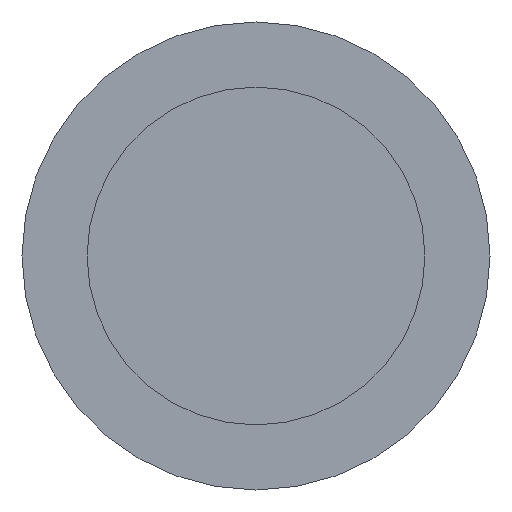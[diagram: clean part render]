
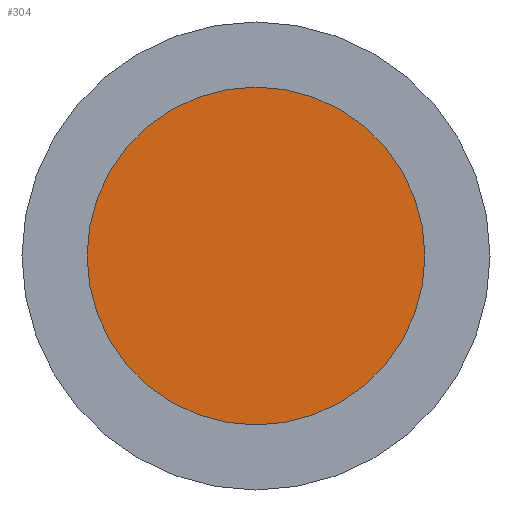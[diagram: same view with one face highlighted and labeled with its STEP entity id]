
A CAD part, left-side view. The second image highlights one B-rep face of the part: STEP entity #304.
In plain terms, the highlighted planar face has unit normal (-1, 0, 0).
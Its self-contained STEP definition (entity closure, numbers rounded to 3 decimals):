
#5 = ORIENTED_EDGE ( 'NONE', *, *, #306, .T. ) ;
#78 = AXIS2_PLACEMENT_3D ( 'NONE', #148, #158, #159 ) ;
#80 = AXIS2_PLACEMENT_3D ( 'NONE', #373, #374, #375 ) ;
#119 = CIRCLE ( 'NONE', #123, 0.415 ) ;
#123 = AXIS2_PLACEMENT_3D ( 'NONE', #350, #351, #352 ) ;
#133 = CIRCLE ( 'NONE', #80, 0.415 ) ;
#148 = CARTESIAN_POINT ( 'NONE',  ( 17., 0., 0. ) ) ;
#156 = FACE_OUTER_BOUND ( 'NONE', #461, .T. ) ;
#157 = PLANE ( 'NONE',  #78 ) ;
#158 = DIRECTION ( 'NONE',  ( -1., 0., 0. ) ) ;
#159 = DIRECTION ( 'NONE',  ( 0., 0., 1. ) ) ;
#216 = CARTESIAN_POINT ( 'NONE',  ( 17., 0., 0.415 ) ) ;
#220 = CARTESIAN_POINT ( 'NONE',  ( 17., 0., -0.415 ) ) ;
#237 = ORIENTED_EDGE ( 'NONE', *, *, #327, .T. ) ;
#304 = ADVANCED_FACE ( 'NONE', ( #156 ), #157, .T. ) ;
#306 = EDGE_CURVE ( 'NONE', #483, #488, #133, .T. ) ;
#327 = EDGE_CURVE ( 'NONE', #488, #483, #119, .T. ) ;
#350 = CARTESIAN_POINT ( 'NONE',  ( 17., 0., 0. ) ) ;
#351 = DIRECTION ( 'NONE',  ( -1., 0., 0. ) ) ;
#352 = DIRECTION ( 'NONE',  ( 0., 0., 1. ) ) ;
#373 = CARTESIAN_POINT ( 'NONE',  ( 17., 0., 0. ) ) ;
#374 = DIRECTION ( 'NONE',  ( -1., 0., 0. ) ) ;
#375 = DIRECTION ( 'NONE',  ( 0., 0., 1. ) ) ;
#461 = EDGE_LOOP ( 'NONE', ( #5, #237 ) ) ;
#483 = VERTEX_POINT ( 'NONE', #216 ) ;
#488 = VERTEX_POINT ( 'NONE', #220 ) ;
